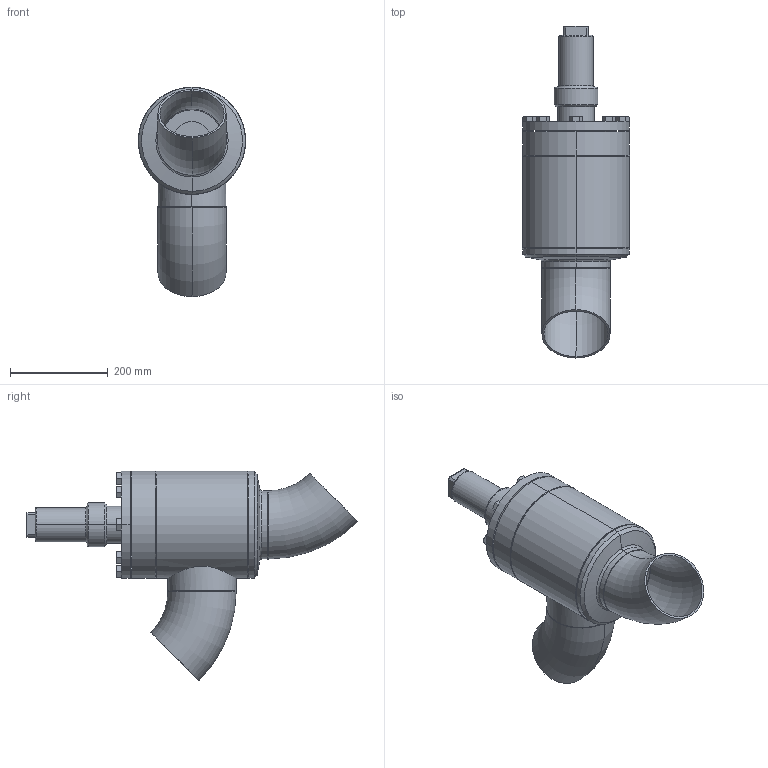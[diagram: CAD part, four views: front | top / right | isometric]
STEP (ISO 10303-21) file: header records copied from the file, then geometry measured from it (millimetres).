
FILE_DESCRIPTION (( 'STEP AP214' ), '1' );
FILE_NAME ('RVA29300D20-DN125_R1_PS40.STEP', '2006-04-28T05:34:05', ( 'Herr Grams' ), ( 'AWP GmbH' ), 'SwSTEP 2.0', 'SolidWorks 2002296', '' );
FILE_SCHEMA (( 'AUTOMOTIVE_DESIGN' ));
Length unit declared in the file: millimetre
Products named in the file (15): RVA29300D20-DN125_R1_PS40; Kappe16402_DN125-150_Standard; RVA29300E20_Deck-Schr-DN125_Standard; Deckel29300E20-DN125_Standard; Sechskantschraube-DIN933_M16x 45; Gehäuse-kpl16300-DN125_R1_Standard; Kopfstück16300-DN125_Standard; Gehäuse16300-DN125_Standard; Boden16300-DN125_Standard; Rohrstutzen-A16300-DN125_R1_Standard; Rohrbogen 45°_Rohrbogen-DN125-45°; bead-DN125-2_Standard; bead-DN125-3_Standard; bead-DN125-4_Standard; bead-DN125-1_Standard
Assembly tree (22 placements, depth 3):
  RVA29300D20-DN125_R1_PS40
    RVA29300E20_Deck-Schr-DN125_Standard
      Sechskantschraube-DIN933_M16x 45  x8
      Deckel29300E20-DN125_Standard
    Gehäuse-kpl16300-DN125_R1_Standard
      Rohrstutzen-A16300-DN125_R1_Standard
      bead-DN125-3_Standard
      bead-DN125-1_Standard
      Kopfstück16300-DN125_Standard
      Boden16300-DN125_Standard
      Rohrbogen 45°_Rohrbogen-DN125-45°  x2
      bead-DN125-4_Standard
      Gehäuse16300-DN125_Standard
      bead-DN125-2_Standard
    Kappe16402_DN125-150_Standard
Bounding box: 219.55 x 679.74 x 429.02 mm (x, y, z)
Volume: 6057945.2 mm3; surface area: 1071061.7 mm2
Topology: 20 solids, 20 shells, 367 faces, 776 edges, 466 vertices
Faces by surface type: cone 126, plane 116, cylinder 89, torus 20, bspline 16
Entity records: 8433 total; most frequent: CARTESIAN_POINT 3549, DIRECTION 894, ORIENTED_EDGE 800, EDGE_CURVE 400, AXIS2_PLACEMENT_3D 391, VERTEX_POINT 248, EDGE_LOOP 232, CIRCLE 194
